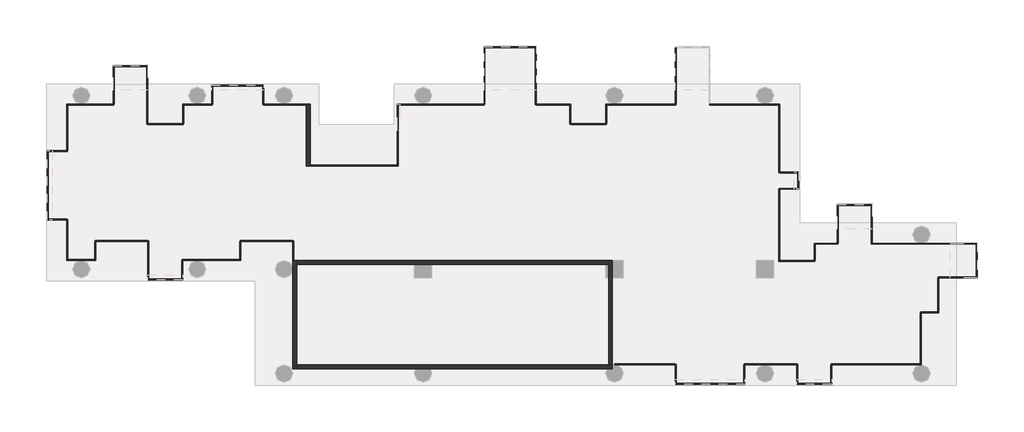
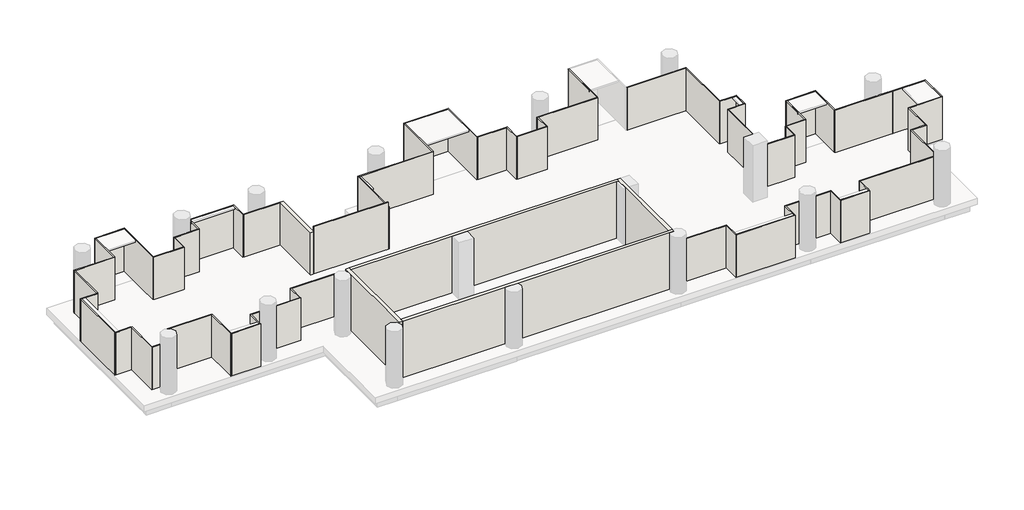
# One storey, part 1 of 2: 71 walls.
"""IFC4 building model written with IfcOpenShell, lengths in millimetres."""

from ifc_helpers import new_model, si_unit, frame, origin, place, context, project, spatial, polyline, outline, extrude, faceted_brep, element, save

model = new_model("IFC4")

# Units and contexts
model_context = context("Model", 3, world=origin())
ifc_project = project(units=[si_unit("LENGTHUNIT", "METRE", prefix="MILLI")], contexts=[model_context])

# Site, building, storey
site = spatial("IfcSite", under=ifc_project)
building = spatial("IfcBuilding", under=site)
storey = spatial("IfcBuildingStorey", under=building, Name="TW-L 06", Elevation=20799.9999686)

# Walls
placement = place(None, origin())
element("IfcWall", 1, ObjectType="AJN-ARC-CONCRETE WALL-20cm", at=placement, inside=storey, context=model_context, shape_type="Brep", body=[
    faceted_brep([(113050.0, 30750.0, 24399.9999686), (113050.0, 30750.0, 20799.9999686), (113050.0, 25150.0, 20799.9999686), (113050.0, 25150.0, 24399.9999686), (113250.0, 30750.0, 20799.9999686), (113250.0, 30750.0, 24399.9999686), (113250.0, 30550.0, 24399.9999686), (113250.0, 25350.0, 24399.9999686), (113250.0, 25150.0, 24399.9999686), (113250.0, 25150.0, 20799.9999686), (113250.0, 25350.0, 20799.9999686), (113250.0, 30550.0, 20799.9999686), (113097.1743518, 30750.0, 20799.9999686)], [[[0, 1, 2, 3]], [[4, 5, 6, 7, 8, 9, 10, 11]], [[2, 1, 12, 4, 11, 10, 9]], [[0, 3, 8, 7, 6, 5]], [[3, 2, 9, 8]], [[0, 5, 4, 12, 1]]]),
])
element("IfcWall", 2, ObjectType="AJN-ARC-CONCRETE WALL-20cm", at=placement, inside=storey, context=model_context, shape_type="Brep", body=[
    faceted_brep([(113250.0, 25150.0, 20799.9999686), (119425.8342613, 25150.0, 20799.9999686), (120174.1657387, 25150.0, 20799.9999686), (129325.8342613, 25150.0, 20799.9999686), (129600.0, 25150.0, 20799.9999686), (129600.0, 25150.0, 24399.9999686), (129325.8342613, 25150.0, 24399.9999686), (120174.1657387, 25150.0, 24399.9999686), (119425.8342613, 25150.0, 24399.9999686), (113250.0, 25150.0, 24399.9999686), (113250.0, 25350.0, 20799.9999686), (113250.0, 25350.0, 24399.9999686), (129400.0, 25350.0, 24399.9999686), (129600.0, 25350.0, 24399.9999686), (129600.0, 25350.0, 20799.9999686), (129400.0, 25350.0, 20799.9999686), (129600.0, 25338.7482194, 20799.9999686), (129600.0, 25338.7482194, 24399.9999686)], [[[0, 1, 2, 3, 4, 5, 6, 7, 8, 9]], [[10, 11, 12, 13, 14, 15]], [[4, 3, 2, 1, 0, 10, 15, 14, 16]], [[9, 8, 7, 6, 5, 17, 13, 12, 11]], [[5, 4, 16, 14, 13, 17]], [[0, 9, 11, 10]]]),
])
element("IfcWall", 3, ObjectType="AJN-ARC-CONCRETE WALL-20cm", at=placement, inside=storey, context=model_context, shape_type="Brep", body=[
    faceted_brep([(129600.0, 25350.0, 20799.9999686), (129600.0, 29850.0, 20799.9999686), (129600.0, 30750.0, 20799.9999686), (129600.0, 30750.0, 24399.9999686), (129600.0, 29850.0, 24399.9999686), (129600.0, 25350.0, 24399.9999686), (129400.0, 25350.0, 20799.9999686), (129400.0, 25350.0, 24399.9999686), (129400.0, 29850.0, 24399.9999686), (129400.0, 30550.0, 24399.9999686), (129400.0, 30750.0, 24399.9999686), (129400.0, 30750.0, 20799.9999686), (129400.0, 30550.0, 20799.9999686), (129400.0, 29850.0, 20799.9999686)], [[[0, 1, 2, 3, 4, 5]], [[6, 7, 8, 9, 10, 11, 12, 13]], [[2, 1, 0, 6, 13, 12, 11]], [[5, 4, 3, 10, 9, 8, 7]], [[3, 2, 11, 10]], [[0, 5, 7, 6]]]),
])
element("IfcWall", 4, ObjectType="AJN-ARC-CONCRETE WALL-20cm", at=placement, inside=storey, context=model_context, shape_type="Brep", body=[
    faceted_brep([(129400.0, 30750.0, 20799.9999686), (113250.0, 30750.0, 20799.9999686), (113250.0, 30750.0, 24399.9999686), (129400.0, 30750.0, 24399.9999686), (129400.0, 30550.0, 20799.9999686), (129400.0, 30550.0, 24399.9999686), (129250.0, 30550.0, 24399.9999686), (120250.0, 30550.0, 24399.9999686), (119350.0, 30550.0, 24399.9999686), (113250.0, 30550.0, 24399.9999686), (113250.0, 30550.0, 20799.9999686), (119350.0, 30550.0, 20799.9999686), (120250.0, 30550.0, 20799.9999686), (129250.0, 30550.0, 20799.9999686)], [[[0, 1, 2, 3]], [[4, 5, 6, 7, 8, 9, 10, 11, 12, 13]], [[1, 0, 4, 13, 12, 11, 10]], [[3, 2, 9, 8, 7, 6, 5]], [[0, 3, 5, 4]], [[1, 10, 9, 2]]]),
])
element("IfcWall", 5, ObjectType="AJN-ARC-CONCRETE WALL-20cm", at=placement, inside=storey, context=model_context, shape_type="Brep", body=[
    faceted_brep([(113950.0, 35650.0, 20799.9999686), (113950.0, 38850.001152, 20799.9999686), (113950.0, 38850.001152, 23499.9999686), (113950.0, 35650.0, 23499.9999686), (113750.0, 35650.0, 20799.9999686), (113750.0, 35650.0, 23499.9999686), (113750.0, 38800.001056, 23499.9999686), (113750.0, 38850.001056, 23499.9999686), (113750.0, 38850.001056, 20799.9999686), (113750.0, 38800.001056, 20799.9999686)], [[[0, 1, 2, 3]], [[4, 5, 6, 7, 8, 9]], [[1, 0, 4, 9, 8]], [[3, 2, 7, 6, 5]], [[0, 3, 5, 4]], [[2, 1, 8, 7]]]),
])
element("IfcWall", 6, ObjectType="AJN-ARC-GLASS-50mm", at=placement, inside=storey, context=model_context, shape_type="SweptSolid", body=[
    extrude(outline(polyline([(111550.0, 38850.0), (113750.0, 38850.001056), (113750.0, 38800.001056), (111550.000024, 38800.0), (111550.0, 38850.0)])), frame((0.0, 0.0, 20799.9999686), z_axis=(0.0, 0.0, 1.0), x_axis=(1.0, 0.0, 0.0)), (0.0, 0.0, 1.0), 2700.0),
])
element("IfcWall", 7, ObjectType="AJN-ARC-GLASS-50mm", at=placement, inside=storey, context=model_context, shape_type="Brep", body=[
    faceted_brep([(111550.0, 38824.999988, 20799.9999686), (111550.0, 39850.0, 20799.9999686), (111550.0, 39850.0, 23499.9999686), (111550.0, 38824.999988, 23499.9999686), (111500.0, 38824.999988, 20799.9999686), (111500.0, 38824.999988, 23499.9999686), (111500.0, 39800.0, 23499.9999686), (111500.0, 39850.0, 23499.9999686), (111500.0, 39850.0, 20799.9999686), (111500.0, 39800.0, 20799.9999686)], [[[0, 1, 2, 3]], [[4, 5, 6, 7, 8, 9]], [[1, 0, 4, 9, 8]], [[3, 2, 7, 6, 5]], [[0, 3, 5, 4]], [[2, 1, 8, 7]]]),
])
element("IfcWall", 8, ObjectType="AJN-ARC-GLASS-50mm", at=placement, inside=storey, context=model_context, shape_type="Brep", body=[
    faceted_brep([(111500.0, 39850.0, 20799.9999686), (108850.0, 39850.0, 20799.9999686), (108850.0, 39850.0, 23499.9999686), (111500.0, 39850.0, 23499.9999686), (111500.0, 39800.0, 20799.9999686), (111500.0, 39800.0, 23499.9999686), (108900.0, 39800.0, 23499.9999686), (108850.0, 39800.0, 23499.9999686), (108850.0, 39800.0, 20799.9999686), (108900.0, 39800.0, 20799.9999686)], [[[0, 1, 2, 3]], [[4, 5, 6, 7, 8, 9]], [[1, 0, 4, 9, 8]], [[3, 2, 7, 6, 5]], [[2, 1, 8, 7]], [[0, 3, 5, 4]]]),
])
element("IfcWall", 9, ObjectType="AJN-ARC-GLASS-50mm", at=placement, inside=storey, context=model_context, shape_type="SweptSolid", body=[
    extrude(outline(polyline([(108850.0, 38850.0), (108850.0, 39800.0), (108900.0, 39800.0), (108900.0, 38850.0), (108850.0, 38850.0)])), frame((0.0, 0.0, 20799.9999686), z_axis=(0.0, 0.0, 1.0), x_axis=(1.0, 0.0, 0.0)), (0.0, 0.0, 1.0), 2700.0),
])
element("IfcWall", 10, ObjectType="AJN-ARC-GLASS-50mm", at=placement, inside=storey, context=model_context, shape_type="Brep", body=[
    faceted_brep([(108875.0, 38850.0, 20799.9999686), (107350.0, 38850.0, 20799.9999686), (107350.0, 38850.0, 23499.9999686), (108875.0, 38850.0, 23499.9999686), (108875.0, 38800.0, 20799.9999686), (108875.0, 38800.0, 23499.9999686), (107400.0, 38800.0, 23499.9999686), (107350.0, 38800.0, 23499.9999686), (107350.0, 38800.0, 20799.9999686), (107400.0, 38800.0, 20799.9999686)], [[[0, 1, 2, 3]], [[4, 5, 6, 7, 8, 9]], [[1, 0, 4, 9, 8]], [[3, 2, 7, 6, 5]], [[0, 3, 5, 4]], [[2, 1, 8, 7]]]),
])
element("IfcWall", 11, ObjectType="AJN-ARC-GLASS-50mm", at=placement, inside=storey, context=model_context, shape_type="SweptSolid", body=[
    extrude(outline(polyline([(107350.0, 37850.0), (107350.0, 38800.0), (107400.0, 38800.0), (107400.0, 37850.0), (107350.0, 37850.0)])), frame((0.0, 0.0, 20799.9999686), z_axis=(0.0, 0.0, 1.0), x_axis=(1.0, 0.0, 0.0)), (0.0, 0.0, 1.0), 2700.0),
])
element("IfcWall", 12, ObjectType="AJN-ARC-GLASS-50mm", at=placement, inside=storey, context=model_context, shape_type="SweptSolid", body=[
    extrude(outline(polyline([(105550.0, 37850.0), (107375.0, 37850.0), (107375.0, 37800.0), (105550.0, 37800.0), (105550.0, 37850.0)])), frame((0.0, 0.0, 20799.9999686), z_axis=(0.0, 0.0, 1.0), x_axis=(1.0, 0.0, 0.0)), (0.0, 0.0, 1.0), 2700.0),
])
element("IfcWall", 13, ObjectType="AJN-ARC-GLASS-50mm", at=placement, inside=storey, context=model_context, shape_type="Brep", body=[
    faceted_brep([(105550.0, 37825.0, 20799.9999686), (105550.0, 40850.0, 20799.9999686), (105550.0, 40850.0, 23499.9999686), (105550.0, 37825.0, 23499.9999686), (105500.0, 37825.0, 20799.9999686), (105500.0, 37825.0, 23499.9999686), (105500.0, 40800.0, 23499.9999686), (105500.0, 40850.0, 23499.9999686), (105500.0, 40850.0, 20799.9999686), (105500.0, 40800.0, 20799.9999686)], [[[0, 1, 2, 3]], [[4, 5, 6, 7, 8, 9]], [[1, 0, 4, 9, 8]], [[3, 2, 7, 6, 5]], [[0, 3, 5, 4]], [[2, 1, 8, 7]]]),
])
element("IfcWall", 14, ObjectType="AJN-ARC-GLASS-50mm", at=placement, inside=storey, context=model_context, shape_type="Brep", body=[
    faceted_brep([(105500.0, 40850.0, 20799.9999686), (103750.0, 40850.0, 20799.9999686), (103750.0, 40850.0, 23499.9999686), (105500.0, 40850.0, 23499.9999686), (105500.0, 40800.0, 20799.9999686), (105500.0, 40800.0, 23499.9999686), (103800.0, 40800.0, 23499.9999686), (103750.0, 40800.0, 23499.9999686), (103750.0, 40800.0, 20799.9999686), (103800.0, 40800.0, 20799.9999686)], [[[0, 1, 2, 3]], [[4, 5, 6, 7, 8, 9]], [[1, 0, 4, 9, 8]], [[3, 2, 7, 6, 5]], [[2, 1, 8, 7]], [[0, 3, 5, 4]]]),
])
element("IfcWall", 15, ObjectType="AJN-ARC-GLASS-50mm", at=placement, inside=storey, context=model_context, shape_type="SweptSolid", body=[
    extrude(outline(polyline([(103750.0, 38850.0), (103750.0, 40800.0), (103800.0, 40800.0), (103800.0, 38850.0), (103750.0, 38850.0)])), frame((0.0, 0.0, 20799.9999686), z_axis=(0.0, 0.0, 1.0), x_axis=(1.0, 0.0, 0.0)), (0.0, 0.0, 1.0), 2700.0),
])
element("IfcWall", 16, ObjectType="AJN-ARC-GLASS-50mm", at=placement, inside=storey, context=model_context, shape_type="Brep", body=[
    faceted_brep([(103775.000012, 38849.999988, 20799.9999686), (101347.1743518, 38850.001152, 20799.9999686), (101347.1743518, 38850.001152, 23499.9999686), (103775.000012, 38849.999988, 23499.9999686), (103774.999988, 38799.999988, 20799.9999686), (103774.999988, 38799.999988, 23499.9999686), (101397.1743518, 38800.001128, 23499.9999686), (101347.1743518, 38800.001152, 23499.9999686), (101347.1743518, 38800.001152, 20799.9999686), (101397.1743518, 38800.001128, 20799.9999686)], [[[0, 1, 2, 3]], [[4, 5, 6, 7, 8, 9]], [[1, 0, 4, 9, 8]], [[3, 2, 7, 6, 5]], [[0, 3, 5, 4]], [[2, 1, 8, 7]]]),
])
element("IfcWall", 17, ObjectType="AJN-ARC-GLASS-50mm", at=placement, inside=storey, context=model_context, shape_type="SweptSolid", body=[
    extrude(outline(polyline([(101347.1743518, 36450.0), (101347.1743518, 38800.001152), (101397.1743518, 38800.001128), (101397.1743518, 36450.0), (101347.1743518, 36450.0)])), frame((0.0, 0.0, 20799.9999686), z_axis=(0.0, 0.0, 1.0), x_axis=(1.0, 0.0, 0.0)), (0.0, 0.0, 1.0), 2700.0),
])
element("IfcWall", 18, ObjectType="AJN-ARC-GLASS-50mm", at=placement, inside=storey, context=model_context, shape_type="Brep", body=[
    faceted_brep([(101372.1743518, 36450.0, 20799.9999686), (100347.1743518, 36450.0, 20799.9999686), (100347.1743518, 36450.0, 23499.9999686), (101372.1743518, 36450.0, 23499.9999686), (101372.1743518, 36400.0, 20799.9999686), (101372.1743518, 36400.0, 23499.9999686), (100397.1743518, 36400.0, 23499.9999686), (100347.1743518, 36400.0, 23499.9999686), (100347.1743518, 36400.0, 20799.9999686), (100397.1743518, 36400.0, 20799.9999686)], [[[0, 1, 2, 3]], [[4, 5, 6, 7, 8, 9]], [[1, 0, 4, 9, 8]], [[3, 2, 7, 6, 5]], [[0, 3, 5, 4]], [[2, 1, 8, 7]]]),
])
element("IfcWall", 19, ObjectType="AJN-ARC-GLASS-50mm", at=placement, inside=storey, context=model_context, shape_type="Brep", body=[
    faceted_brep([(100347.1743518, 36400.0, 20799.9999686), (100347.1743518, 32850.0, 20799.9999686), (100347.1743518, 32850.0, 23499.9999686), (100347.1743518, 36400.0, 23499.9999686), (100397.1743518, 36400.0, 20799.9999686), (100397.1743518, 36400.0, 23499.9999686), (100397.1743518, 32900.0, 23499.9999686), (100397.1743518, 32850.0, 23499.9999686), (100397.1743518, 32850.0, 20799.9999686), (100397.1743518, 32900.0, 20799.9999686)], [[[0, 1, 2, 3]], [[4, 5, 6, 7, 8, 9]], [[1, 0, 4, 9, 8]], [[3, 2, 7, 6, 5]], [[2, 1, 8, 7]], [[0, 3, 5, 4]]]),
])
element("IfcWall", 20, ObjectType="AJN-ARC-GLASS-50mm", at=placement, inside=storey, context=model_context, shape_type="SweptSolid", body=[
    extrude(outline(polyline([(101347.1743518, 32850.0), (100397.1743518, 32850.0), (100397.1743518, 32900.0), (101347.1743518, 32900.0), (101347.1743518, 32850.0)])), frame((0.0, 0.0, 20799.9999686), z_axis=(0.0, 0.0, 1.0), x_axis=(1.0, 0.0, 0.0)), (0.0, 0.0, 1.0), 2700.0),
])
element("IfcWall", 21, ObjectType="AJN-ARC-GLASS-50mm", at=placement, inside=storey, context=model_context, shape_type="Brep", body=[
    faceted_brep([(101347.1743518, 32875.0, 20799.9999686), (101347.1743518, 30750.0, 20799.9999686), (101347.1743518, 30750.0, 23499.9999686), (101347.1743518, 32875.0, 23499.9999686), (101397.1743518, 32875.0, 20799.9999686), (101397.1743518, 32875.0, 23499.9999686), (101397.1743518, 30800.0, 23499.9999686), (101397.1743518, 30750.0, 23499.9999686), (101397.1743518, 30750.0, 20799.9999686), (101397.1743518, 30800.0, 20799.9999686)], [[[0, 1, 2, 3]], [[4, 5, 6, 7, 8, 9]], [[1, 0, 4, 9, 8]], [[3, 2, 7, 6, 5]], [[0, 3, 5, 4]], [[2, 1, 8, 7]]]),
])
element("IfcWall", 22, ObjectType="AJN-ARC-GLASS-50mm", at=placement, inside=storey, context=model_context, shape_type="Brep", body=[
    faceted_brep([(101397.1743518, 30750.0, 20799.9999686), (102847.1743518, 30750.0, 20799.9999686), (102847.1743518, 30750.0, 23499.9999686), (101397.1743518, 30750.0, 23499.9999686), (101397.1743518, 30800.0, 20799.9999686), (101397.1743518, 30800.0, 23499.9999686), (102797.1743518, 30800.0, 23499.9999686), (102847.1743518, 30800.0, 23499.9999686), (102847.1743518, 30800.0, 20799.9999686), (102797.1743518, 30800.0, 20799.9999686)], [[[0, 1, 2, 3]], [[4, 5, 6, 7, 8, 9]], [[1, 0, 4, 9, 8]], [[3, 2, 7, 6, 5]], [[2, 1, 8, 7]], [[0, 3, 5, 4]]]),
])
element("IfcWall", 23, ObjectType="AJN-ARC-GLASS-50mm", at=placement, inside=storey, context=model_context, shape_type="SweptSolid", body=[
    extrude(outline(polyline([(102847.1743518, 31750.0), (102847.1743518, 30800.0), (102797.1743518, 30800.0), (102797.1743518, 31750.0), (102847.1743518, 31750.0)])), frame((0.0, 0.0, 20799.9999686), z_axis=(0.0, 0.0, 1.0), x_axis=(1.0, 0.0, 0.0)), (0.0, 0.0, 1.0), 2700.0),
])
element("IfcWall", 24, ObjectType="AJN-ARC-GLASS-50mm", at=placement, inside=storey, context=model_context, shape_type="SweptSolid", body=[
    extrude(outline(polyline([(105547.1743518, 31750.0), (102822.1743518, 31750.0), (102822.1743518, 31800.0), (105547.1743518, 31800.0), (105547.1743518, 31750.0)])), frame((0.0, 0.0, 20799.9999686), z_axis=(0.0, 0.0, 1.0), x_axis=(1.0, 0.0, 0.0)), (0.0, 0.0, 1.0), 2700.0),
])
element("IfcWall", 25, ObjectType="AJN-ARC-GLASS-50mm", at=placement, inside=storey, context=model_context, shape_type="Brep", body=[
    faceted_brep([(105547.1743518, 31775.0, 20799.9999686), (105547.1743518, 29750.0, 20799.9999686), (105547.1743518, 29750.0, 23499.9999686), (105547.1743518, 31775.0, 23499.9999686), (105597.1743518, 31775.0, 20799.9999686), (105597.1743518, 31775.0, 23499.9999686), (105597.1743518, 29800.0, 23499.9999686), (105597.1743518, 29750.0, 23499.9999686), (105597.1743518, 29750.0, 20799.9999686), (105597.1743518, 29800.0, 20799.9999686)], [[[0, 1, 2, 3]], [[4, 5, 6, 7, 8, 9]], [[1, 0, 4, 9, 8]], [[3, 2, 7, 6, 5]], [[0, 3, 5, 4]], [[2, 1, 8, 7]]]),
])
element("IfcWall", 26, ObjectType="AJN-ARC-GLASS-50mm", at=placement, inside=storey, context=model_context, shape_type="Brep", body=[
    faceted_brep([(105597.1743518, 29750.0, 20799.9999686), (107347.1743518, 29750.0, 20799.9999686), (107347.1743518, 29750.0, 23499.9999686), (105597.1743518, 29750.0, 23499.9999686), (105597.1743518, 29800.0, 20799.9999686), (105597.1743518, 29800.0, 23499.9999686), (107297.1743518, 29800.0, 23499.9999686), (107347.1743518, 29800.0, 23499.9999686), (107347.1743518, 29800.0, 20799.9999686), (107297.1743518, 29800.0, 20799.9999686)], [[[0, 1, 2, 3]], [[4, 5, 6, 7, 8, 9]], [[1, 0, 4, 9, 8]], [[3, 2, 7, 6, 5]], [[2, 1, 8, 7]], [[0, 3, 5, 4]]]),
])
element("IfcWall", 27, ObjectType="AJN-ARC-GLASS-50mm", at=placement, inside=storey, context=model_context, shape_type="SweptSolid", body=[
    extrude(outline(polyline([(107347.1743518, 30750.0), (107347.1743518, 29800.0), (107297.1743518, 29800.0), (107297.1743518, 30750.0), (107347.1743518, 30750.0)])), frame((0.0, 0.0, 20799.9999686), z_axis=(0.0, 0.0, 1.0), x_axis=(1.0, 0.0, 0.0)), (0.0, 0.0, 1.0), 2700.0),
])
element("IfcWall", 28, ObjectType="AJN-ARC-GLASS-50mm", at=placement, inside=storey, context=model_context, shape_type="Brep", body=[
    faceted_brep([(107322.1743518, 30750.0, 20799.9999686), (110347.1743518, 30750.0, 20799.9999686), (110347.1743518, 30750.0, 23499.9999686), (107322.1743518, 30750.0, 23499.9999686), (107322.1743518, 30800.0, 20799.9999686), (107322.1743518, 30800.0, 23499.9999686), (110297.1743518, 30800.0, 23499.9999686), (110347.1743518, 30800.0, 23499.9999686), (110347.1743518, 30800.0, 20799.9999686), (110297.1743518, 30800.0, 20799.9999686)], [[[0, 1, 2, 3]], [[4, 5, 6, 7, 8, 9]], [[1, 0, 4, 9, 8]], [[3, 2, 7, 6, 5]], [[0, 3, 5, 4]], [[2, 1, 8, 7]]]),
])
element("IfcWall", 29, ObjectType="AJN-ARC-GLASS-50mm", at=placement, inside=storey, context=model_context, shape_type="SweptSolid", body=[
    extrude(outline(polyline([(110347.1743518, 31750.0), (110347.1743518, 30800.0), (110297.1743518, 30800.0), (110297.1743518, 31750.0), (110347.1743518, 31750.0)])), frame((0.0, 0.0, 20799.9999686), z_axis=(0.0, 0.0, 1.0), x_axis=(1.0, 0.0, 0.0)), (0.0, 0.0, 1.0), 2700.0),
])
element("IfcWall", 30, ObjectType="AJN-ARC-GLASS-50mm", at=placement, inside=storey, context=model_context, shape_type="SweptSolid", body=[
    extrude(outline(polyline([(113047.1743518, 31750.0), (110322.1743518, 31750.0), (110322.1743518, 31800.0), (113047.1743518, 31800.0), (113047.1743518, 31750.0)])), frame((0.0, 0.0, 20799.9999686), z_axis=(0.0, 0.0, 1.0), x_axis=(1.0, 0.0, 0.0)), (0.0, 0.0, 1.0), 2700.0),
])
element("IfcWall", 31, ObjectType="AJN-ARC-GLASS-50mm", at=placement, inside=storey, context=model_context, shape_type="Brep", body=[
    faceted_brep([(113047.1743518, 31775.0, 20799.9999686), (113047.1743518, 30750.0, 20799.9999686), (113047.1743518, 30750.0, 23499.9999686), (113047.1743518, 31775.0, 23499.9999686), (113097.1743518, 31775.0, 20799.9999686), (113097.1743518, 31775.0, 23499.9999686), (113097.1743518, 30750.0, 23499.9999686), (113097.1743518, 30750.0, 20799.9999686), (113050.0, 30750.0, 20799.9999686)], [[[0, 1, 2, 3]], [[4, 5, 6, 7]], [[1, 0, 4, 7, 8]], [[3, 2, 6, 5]], [[0, 3, 5, 4]], [[2, 1, 8, 7, 6]]]),
])
element("IfcWall", 32, ObjectType="AJN-ARC-GLASS-50mm", at=placement, inside=storey, context=model_context, shape_type="Brep", body=[
    faceted_brep([(138250.0, 30700.0, 20799.9999686), (138250.0, 30750.0, 20799.9999686), (138250.0, 34450.0, 20799.9999686), (138250.0, 34450.0, 23499.9999686), (138250.0, 30750.0, 23499.9999686), (138250.0, 30700.0, 23499.9999686), (138200.0, 30700.0, 20799.9999686), (138200.0, 30700.0, 23499.9999686), (138200.0, 34450.0, 23499.9999686), (138200.0, 34450.0, 20799.9999686)], [[[0, 1, 2, 3, 4, 5]], [[6, 7, 8, 9]], [[2, 1, 0, 6, 9]], [[3, 2, 9, 8]], [[5, 4, 3, 8, 7]], [[0, 5, 7, 6]]]),
])
element("IfcWall", 33, ObjectType="AJN-ARC-GLASS-50mm", at=placement, inside=storey, context=model_context, shape_type="Brep", body=[
    faceted_brep([(138225.0, 34450.0, 20799.9999686), (139250.0, 34450.0, 20799.9999686), (139250.0, 34450.0, 23499.9999686), (138225.0, 34450.0, 23499.9999686), (138225.0, 34500.0, 20799.9999686), (138225.0, 34500.0, 23499.9999686), (139200.0, 34500.0, 23499.9999686), (139250.0, 34500.0, 23499.9999686), (139250.0, 34500.0, 20799.9999686), (139200.0, 34500.0, 20799.9999686)], [[[0, 1, 2, 3]], [[4, 5, 6, 7, 8, 9]], [[1, 0, 4, 9, 8]], [[3, 2, 7, 6, 5]], [[0, 3, 5, 4]], [[2, 1, 8, 7]]]),
])
element("IfcWall", 34, ObjectType="AJN-ARC-GLASS-50mm", at=placement, inside=storey, context=model_context, shape_type="Brep", body=[
    faceted_brep([(139250.0, 34500.0, 20799.9999686), (139250.0, 35350.0, 20799.9999686), (139250.0, 35350.0, 23499.9999686), (139250.0, 34500.0, 23499.9999686), (139200.0, 34500.0, 20799.9999686), (139200.0, 34500.0, 23499.9999686), (139200.0, 35300.0, 23499.9999686), (139200.0, 35350.0, 23499.9999686), (139200.0, 35350.0, 20799.9999686), (139200.0, 35300.0, 20799.9999686)], [[[0, 1, 2, 3]], [[4, 5, 6, 7, 8, 9]], [[1, 0, 4, 9, 8]], [[3, 2, 7, 6, 5]], [[2, 1, 8, 7]], [[0, 3, 5, 4]]]),
])
element("IfcWall", 35, ObjectType="AJN-ARC-GLASS-50mm", at=placement, inside=storey, context=model_context, shape_type="SweptSolid", body=[
    extrude(outline(polyline([(138250.0, 35350.0), (139200.0, 35350.0), (139200.0, 35300.0), (138250.0, 35300.0), (138250.0, 35350.0)])), frame((0.0, 0.0, 20799.9999686), z_axis=(0.0, 0.0, 1.0), x_axis=(1.0, 0.0, 0.0)), (0.0, 0.0, 1.0), 2700.0),
])
element("IfcWall", 36, ObjectType="AJN-ARC-GLASS-50mm", at=placement, inside=storey, context=model_context, shape_type="Brep", body=[
    faceted_brep([(138250.0, 35325.0, 20799.9999686), (138250.0, 38850.0, 20799.9999686), (138250.0, 38850.0, 23499.9999686), (138250.0, 35325.0, 23499.9999686), (138200.0, 35325.0, 20799.9999686), (138200.0, 35325.0, 23499.9999686), (138200.0, 38800.0, 23499.9999686), (138200.0, 38850.0, 23499.9999686), (138200.0, 38850.0, 20799.9999686), (138200.0, 38800.0, 20799.9999686)], [[[0, 1, 2, 3]], [[4, 5, 6, 7, 8, 9]], [[1, 0, 4, 9, 8]], [[3, 2, 7, 6, 5]], [[0, 3, 5, 4]], [[2, 1, 8, 7]]]),
])
element("IfcWall", 37, ObjectType="AJN-ARC-GLASS-50mm", at=placement, inside=storey, context=model_context, shape_type="SweptSolid", body=[
    extrude(outline(polyline([(134650.0, 38850.0), (138200.0, 38850.0), (138200.0, 38800.0), (134650.0, 38800.0), (134650.0, 38850.0)])), frame((0.0, 0.0, 20799.9999686), z_axis=(0.0, 0.0, 1.0), x_axis=(1.0, 0.0, 0.0)), (0.0, 0.0, 1.0), 2700.0),
])
element("IfcWall", 38, ObjectType="AJN-ARC-GLASS-50mm", at=placement, inside=storey, context=model_context, shape_type="SweptSolid", body=[
    extrude(outline(polyline([(132850.0, 38850.0), (132850.0, 41800.0), (132900.0, 41800.0), (132900.0, 38850.0), (132850.0, 38850.0)])), frame((0.0, 0.0, 20799.9999686), z_axis=(0.0, 0.0, 1.0), x_axis=(1.0, 0.0, 0.0)), (0.0, 0.0, 1.0), 2700.0),
])
element("IfcWall", 39, ObjectType="AJN-ARC-GLASS-50mm", at=placement, inside=storey, context=model_context, shape_type="Brep", body=[
    faceted_brep([(132875.0, 38850.0, 20799.9999686), (129250.0, 38850.0, 20799.9999686), (129250.0, 38850.0, 23499.9999686), (132875.0, 38850.0, 23499.9999686), (132875.0, 38800.0, 20799.9999686), (132875.0, 38800.0, 23499.9999686), (129300.0, 38800.0, 23499.9999686), (129250.0, 38800.0, 23499.9999686), (129250.0, 38800.0, 20799.9999686), (129300.0, 38800.0, 20799.9999686)], [[[0, 1, 2, 3]], [[4, 5, 6, 7, 8, 9]], [[1, 0, 4, 9, 8]], [[3, 2, 7, 6, 5]], [[0, 3, 5, 4]], [[2, 1, 8, 7]]]),
])
element("IfcWall", 40, ObjectType="AJN-ARC-GLASS-50mm", at=placement, inside=storey, context=model_context, shape_type="SweptSolid", body=[
    extrude(outline(polyline([(129250.0, 37850.0), (129250.0, 38800.0), (129300.0, 38800.0), (129300.0, 37850.0), (129250.0, 37850.0)])), frame((0.0, 0.0, 20799.9999686), z_axis=(0.0, 0.0, 1.0), x_axis=(1.0, 0.0, 0.0)), (0.0, 0.0, 1.0), 2700.0),
])
element("IfcWall", 41, ObjectType="AJN-ARC-GLASS-50mm", at=placement, inside=storey, context=model_context, shape_type="SweptSolid", body=[
    extrude(outline(polyline([(127450.0, 37850.0), (129275.0, 37850.0), (129275.0, 37800.0), (127450.0, 37800.0), (127450.0, 37850.0)])), frame((0.0, 0.0, 20799.9999686), z_axis=(0.0, 0.0, 1.0), x_axis=(1.0, 0.0, 0.0)), (0.0, 0.0, 1.0), 2700.0),
])
element("IfcWall", 42, ObjectType="AJN-ARC-GLASS-50mm", at=placement, inside=storey, context=model_context, shape_type="Brep", body=[
    faceted_brep([(127450.0, 37825.0, 20799.9999686), (127450.0, 38850.0, 20799.9999686), (127450.0, 38850.0, 23499.9999686), (127450.0, 37825.0, 23499.9999686), (127400.0, 37825.0, 20799.9999686), (127400.0, 37825.0, 23499.9999686), (127400.0, 38800.0, 23499.9999686), (127400.0, 38850.0, 23499.9999686), (127400.0, 38850.0, 20799.9999686), (127400.0, 38800.0, 20799.9999686)], [[[0, 1, 2, 3]], [[4, 5, 6, 7, 8, 9]], [[1, 0, 4, 9, 8]], [[3, 2, 7, 6, 5]], [[0, 3, 5, 4]], [[2, 1, 8, 7]]]),
])
element("IfcWall", 43, ObjectType="AJN-ARC-GLASS-50mm", at=placement, inside=storey, context=model_context, shape_type="SweptSolid", body=[
    extrude(outline(polyline([(125650.0, 38850.0), (127400.0, 38850.0), (127400.0, 38800.0), (125650.0, 38800.0), (125650.0, 38850.0)])), frame((0.0, 0.0, 20799.9999686), z_axis=(0.0, 0.0, 1.0), x_axis=(1.0, 0.0, 0.0)), (0.0, 0.0, 1.0), 2700.0),
])
element("IfcWall", 44, ObjectType="AJN-ARC-GLASS-50mm", at=placement, inside=storey, context=model_context, shape_type="Brep", body=[
    faceted_brep([(125650.0, 38825.0, 20799.9999686), (125650.0, 41850.0, 20799.9999686), (125650.0, 41850.0, 23499.9999686), (125650.0, 38825.0, 23499.9999686), (125600.0, 38825.0, 20799.9999686), (125600.0, 38825.0, 23499.9999686), (125600.0, 41800.0, 23499.9999686), (125600.0, 41850.0, 23499.9999686), (125600.0, 41850.0, 20799.9999686), (125600.0, 41800.0, 20799.9999686)], [[[0, 1, 2, 3]], [[4, 5, 6, 7, 8, 9]], [[1, 0, 4, 9, 8]], [[3, 2, 7, 6, 5]], [[0, 3, 5, 4]], [[2, 1, 8, 7]]]),
])
element("IfcWall", 45, ObjectType="AJN-ARC-GLASS-50mm", at=placement, inside=storey, context=model_context, shape_type="Brep", body=[
    faceted_brep([(125600.0, 41850.0, 20799.9999686), (122950.0, 41850.0, 20799.9999686), (122950.0, 41850.0, 23499.9999686), (125600.0, 41850.0, 23499.9999686), (125600.0, 41800.0, 20799.9999686), (125600.0, 41800.0, 23499.9999686), (123000.0, 41800.0, 23499.9999686), (122950.0, 41800.0, 23499.9999686), (122950.0, 41800.0, 20799.9999686), (123000.0, 41800.0, 20799.9999686)], [[[0, 1, 2, 3]], [[4, 5, 6, 7, 8, 9]], [[1, 0, 4, 9, 8]], [[3, 2, 7, 6, 5]], [[2, 1, 8, 7]], [[0, 3, 5, 4]]]),
])
element("IfcWall", 46, ObjectType="AJN-ARC-GLASS-50mm", at=placement, inside=storey, context=model_context, shape_type="SweptSolid", body=[
    extrude(outline(polyline([(122950.0, 38850.0), (122950.0, 41800.0), (123000.0, 41800.0), (123000.0, 38850.0), (122950.0, 38850.0)])), frame((0.0, 0.0, 20799.9999686), z_axis=(0.0, 0.0, 1.0), x_axis=(1.0, 0.0, 0.0)), (0.0, 0.0, 1.0), 2700.0),
])
element("IfcWall", 47, ObjectType="AJN-ARC-GLASS-50mm", at=placement, inside=storey, context=model_context, shape_type="Brep", body=[
    faceted_brep([(122975.0, 38850.0, 20799.9999686), (118450.0, 38850.0, 20799.9999686), (118450.0, 38850.0, 23499.9999686), (122975.0, 38850.0, 23499.9999686), (122975.0, 38800.0, 20799.9999686), (122975.0, 38800.0, 23499.9999686), (118500.0, 38800.0, 23499.9999686), (118450.0, 38800.0, 23499.9999686), (118450.0, 38800.0, 20799.9999686), (118500.0, 38800.0, 20799.9999686)], [[[0, 1, 2, 3]], [[4, 5, 6, 7, 8, 9]], [[1, 0, 4, 9, 8]], [[3, 2, 7, 6, 5]], [[0, 3, 5, 4]], [[2, 1, 8, 7]]]),
])
element("IfcWall", 48, ObjectType="AJN-ARC-GLASS-50mm", at=placement, inside=storey, context=model_context, shape_type="SweptSolid", body=[
    extrude(outline(polyline([(132856.2236377, 25350.0), (129714.068817, 25350.0), (129714.068817, 25400.0), (132856.2236377, 25400.0), (132856.2236377, 25350.0)])), frame((0.0, 0.0, 20799.9999686), z_axis=(0.0, 0.0, 1.0), x_axis=(1.0, 0.0, 0.0)), (0.0, 0.0, 1.0), 2700.0),
])
element("IfcWall", 49, ObjectType="AJN-ARC-GLASS-50mm", at=placement, inside=storey, context=model_context, shape_type="Brep", body=[
    faceted_brep([(132856.2236377, 25375.0, 20799.9999686), (132856.2236377, 24350.0, 20799.9999686), (132856.2236377, 24350.0, 23499.9999686), (132856.2236377, 25375.0, 23499.9999686), (132906.2236377, 25375.0, 20799.9999686), (132906.2236377, 25375.0, 23499.9999686), (132906.2236377, 24400.0, 23499.9999686), (132906.2236377, 24350.0, 23499.9999686), (132906.2236377, 24350.0, 20799.9999686), (132906.2236377, 24400.0, 20799.9999686)], [[[0, 1, 2, 3]], [[4, 5, 6, 7, 8, 9]], [[1, 0, 4, 9, 8]], [[3, 2, 7, 6, 5]], [[0, 3, 5, 4]], [[2, 1, 8, 7]]]),
])
element("IfcWall", 50, ObjectType="AJN-ARC-GLASS-50mm", at=placement, inside=storey, context=model_context, shape_type="Brep", body=[
    faceted_brep([(132906.2236377, 24350.0, 20799.9999686), (136456.2236377, 24350.0, 20799.9999686), (136456.2236377, 24350.0, 23499.9999686), (132906.2236377, 24350.0, 23499.9999686), (132906.2236377, 24400.0, 20799.9999686), (132906.2236377, 24400.0, 23499.9999686), (136406.2236377, 24400.0, 23499.9999686), (136456.2236377, 24400.0, 23499.9999686), (136456.2236377, 24400.0, 20799.9999686), (136406.2236377, 24400.0, 20799.9999686)], [[[0, 1, 2, 3]], [[4, 5, 6, 7, 8, 9]], [[1, 0, 4, 9, 8]], [[3, 2, 7, 6, 5]], [[2, 1, 8, 7]], [[0, 3, 5, 4]]]),
])
element("IfcWall", 51, ObjectType="AJN-ARC-GLASS-50mm", at=placement, inside=storey, context=model_context, shape_type="SweptSolid", body=[
    extrude(outline(polyline([(136456.2236377, 25350.0), (136456.2236377, 24400.0), (136406.2236377, 24400.0), (136406.2236377, 25350.0), (136456.2236377, 25350.0)])), frame((0.0, 0.0, 20799.9999686), z_axis=(0.0, 0.0, 1.0), x_axis=(1.0, 0.0, 0.0)), (0.0, 0.0, 1.0), 2700.0),
])
element("IfcWall", 52, ObjectType="AJN-ARC-GLASS-50mm", at=placement, inside=storey, context=model_context, shape_type="SweptSolid", body=[
    extrude(outline(polyline([(139150.1941447, 25350.0), (136431.2236377, 25350.0), (136431.2236377, 25400.0), (139150.1941447, 25400.0), (139150.1941447, 25350.0)])), frame((0.0, 0.0, 20799.9999686), z_axis=(0.0, 0.0, 1.0), x_axis=(1.0, 0.0, 0.0)), (0.0, 0.0, 1.0), 2700.0),
])
element("IfcWall", 53, ObjectType="AJN-ARC-GLASS-50mm", at=placement, inside=storey, context=model_context, shape_type="Brep", body=[
    faceted_brep([(139150.1941447, 25375.0, 20799.9999686), (139150.1941447, 24350.0, 20799.9999686), (139150.1941447, 24350.0, 23499.9999686), (139150.1941447, 25375.0, 23499.9999686), (139200.1941447, 25375.0, 20799.9999686), (139200.1941447, 25375.0, 23499.9999686), (139200.1941447, 24400.0, 23499.9999686), (139200.1941447, 24350.0, 23499.9999686), (139200.1941447, 24350.0, 20799.9999686), (139200.1941447, 24400.0, 20799.9999686)], [[[0, 1, 2, 3]], [[4, 5, 6, 7, 8, 9]], [[1, 0, 4, 9, 8]], [[3, 2, 7, 6, 5]], [[0, 3, 5, 4]], [[2, 1, 8, 7]]]),
])
element("IfcWall", 54, ObjectType="AJN-ARC-GLASS-50mm", at=placement, inside=storey, context=model_context, shape_type="Brep", body=[
    faceted_brep([(139200.1941447, 24350.0, 20799.9999686), (140950.1941447, 24350.0, 20799.9999686), (140950.1941447, 24350.0, 23499.9999686), (139200.1941447, 24350.0, 23499.9999686), (139200.1941447, 24400.0, 20799.9999686), (139200.1941447, 24400.0, 23499.9999686), (140900.1941447, 24400.0, 23499.9999686), (140950.1941447, 24400.0, 23499.9999686), (140950.1941447, 24400.0, 20799.9999686), (140900.1941447, 24400.0, 20799.9999686)], [[[0, 1, 2, 3]], [[4, 5, 6, 7, 8, 9]], [[1, 0, 4, 9, 8]], [[3, 2, 7, 6, 5]], [[2, 1, 8, 7]], [[0, 3, 5, 4]]]),
])
element("IfcWall", 55, ObjectType="AJN-ARC-GLASS-50mm", at=placement, inside=storey, context=model_context, shape_type="SweptSolid", body=[
    extrude(outline(polyline([(140950.1941447, 25350.0), (140950.1941447, 24400.0), (140900.1941447, 24400.0), (140900.1941447, 25350.0), (140950.1941447, 25350.0)])), frame((0.0, 0.0, 20799.9999686), z_axis=(0.0, 0.0, 1.0), x_axis=(1.0, 0.0, 0.0)), (0.0, 0.0, 1.0), 2700.0),
])
element("IfcWall", 56, ObjectType="AJN-ARC-GLASS-50mm", at=placement, inside=storey, context=model_context, shape_type="Brep", body=[
    faceted_brep([(140925.1941447, 25350.0, 20799.9999686), (145597.681474, 25350.0, 20799.9999686), (145597.681474, 25350.0, 23499.9999686), (140925.1941447, 25350.0, 23499.9999686), (140925.1941447, 25400.0, 20799.9999686), (140925.1941447, 25400.0, 23499.9999686), (145547.681474, 25400.0, 23499.9999686), (145597.681474, 25400.0, 23499.9999686), (145597.681474, 25400.0, 20799.9999686), (145547.681474, 25400.0, 20799.9999686)], [[[0, 1, 2, 3]], [[4, 5, 6, 7, 8, 9]], [[1, 0, 4, 9, 8]], [[3, 2, 7, 6, 5]], [[0, 3, 5, 4]], [[2, 1, 8, 7]]]),
])
element("IfcWall", 57, ObjectType="AJN-ARC-GLASS-50mm", at=placement, inside=storey, context=model_context, shape_type="SweptSolid", body=[
    extrude(outline(polyline([(145597.681474, 28050.0), (145597.681474, 25400.0), (145547.681474, 25400.0), (145547.681474, 28050.0), (145597.681474, 28050.0)])), frame((0.0, 0.0, 20799.9999686), z_axis=(0.0, 0.0, 1.0), x_axis=(1.0, 0.0, 0.0)), (0.0, 0.0, 1.0), 2700.0),
])
element("IfcWall", 58, ObjectType="AJN-ARC-GLASS-50mm", at=placement, inside=storey, context=model_context, shape_type="Brep", body=[
    faceted_brep([(145572.681474, 28050.0, 20799.9999686), (146497.681474, 28050.0, 20799.9999686), (146497.681474, 28050.0, 23499.9999686), (145572.681474, 28050.0, 23499.9999686), (145572.681474, 28100.0, 20799.9999686), (145572.681474, 28100.0, 23499.9999686), (146447.681474, 28100.0, 23499.9999686), (146497.681474, 28100.0, 23499.9999686), (146497.681474, 28100.0, 20799.9999686), (146447.681474, 28100.0, 20799.9999686)], [[[0, 1, 2, 3]], [[4, 5, 6, 7, 8, 9]], [[1, 0, 4, 9, 8]], [[3, 2, 7, 6, 5]], [[0, 3, 5, 4]], [[2, 1, 8, 7]]]),
])
element("IfcWall", 59, ObjectType="AJN-ARC-GLASS-50mm", at=placement, inside=storey, context=model_context, shape_type="SweptSolid", body=[
    extrude(outline(polyline([(146497.681474, 29851.6593424), (146497.681474, 28100.0), (146447.681474, 28100.0), (146447.681474, 29851.6593424), (146497.681474, 29851.6593424)])), frame((0.0, 0.0, 20799.9999686), z_axis=(0.0, 0.0, 1.0), x_axis=(1.0, 0.0, 0.0)), (0.0, 0.0, 1.0), 2700.0),
])
element("IfcWall", 60, ObjectType="AJN-ARC-GLASS-50mm", at=placement, inside=storey, context=model_context, shape_type="Brep", body=[
    faceted_brep([(146472.681474, 29851.6593424, 20799.9999686), (148497.681474, 29851.6593424, 20799.9999686), (148497.681474, 29851.6593424, 23499.9999686), (146472.681474, 29851.6593424, 23499.9999686), (146472.681474, 29901.6593424, 20799.9999686), (146472.681474, 29901.6593424, 23499.9999686), (148447.681474, 29901.6593424, 23499.9999686), (148497.681474, 29901.6593424, 23499.9999686), (148497.681474, 29901.6593424, 20799.9999686), (148447.681474, 29901.6593424, 20799.9999686)], [[[0, 1, 2, 3]], [[4, 5, 6, 7, 8, 9]], [[1, 0, 4, 9, 8]], [[3, 2, 7, 6, 5]], [[0, 3, 5, 4]], [[2, 1, 8, 7]]]),
])
element("IfcWall", 61, ObjectType="AJN-ARC-GLASS-50mm", at=placement, inside=storey, context=model_context, shape_type="Brep", body=[
    faceted_brep([(148497.681474, 29901.6593424, 20799.9999686), (148497.681474, 31651.6593424, 20799.9999686), (148497.681474, 31651.6593424, 23499.9999686), (148497.681474, 29901.6593424, 23499.9999686), (148447.681474, 29901.6593424, 20799.9999686), (148447.681474, 29901.6593424, 23499.9999686), (148447.681474, 31601.6593424, 23499.9999686), (148447.681474, 31651.6593424, 23499.9999686), (148447.681474, 31651.6593424, 20799.9999686), (148447.681474, 31601.6593424, 20799.9999686)], [[[0, 1, 2, 3]], [[4, 5, 6, 7, 8, 9]], [[1, 0, 4, 9, 8]], [[3, 2, 7, 6, 5]], [[2, 1, 8, 7]], [[0, 3, 5, 4]]]),
])
element("IfcWall", 62, ObjectType="AJN-ARC-GLASS-50mm", at=placement, inside=storey, context=model_context, shape_type="SweptSolid", body=[
    extrude(outline(polyline([(146497.681474, 31651.6593424), (148447.681474, 31651.6593424), (148447.681474, 31601.6593424), (146497.681474, 31601.6593424), (146497.681474, 31651.6593424)])), frame((0.0, 0.0, 20799.9999686), z_axis=(0.0, 0.0, 1.0), x_axis=(1.0, 0.0, 0.0)), (0.0, 0.0, 1.0), 2700.0),
])
element("IfcWall", 63, ObjectType="AJN-ARC-GLASS-50mm", at=placement, inside=storey, context=model_context, shape_type="Brep", body=[
    faceted_brep([(146497.681474, 31651.6593424, 20799.9999686), (145638.6089983, 31651.6593424, 20799.9999686), (145561.3910017, 31651.6593424, 20799.9999686), (143050.0855834, 31651.6593424, 20799.9999686), (143050.0855834, 31651.6593424, 23499.9999686), (145561.3910017, 31651.6593424, 23499.9999686), (145638.6089983, 31651.6593424, 23499.9999686), (146497.681474, 31651.6593424, 23499.9999686), (146497.681474, 31601.6593424, 20799.9999686), (146497.681474, 31601.6593424, 23499.9999686), (143050.0855834, 31601.6593424, 23499.9999686), (143050.0855834, 31601.6593424, 20799.9999686)], [[[0, 1, 2, 3, 4, 5, 6, 7]], [[8, 9, 10, 11]], [[3, 2, 1, 0, 8, 11]], [[4, 3, 11, 10]], [[7, 6, 5, 4, 10, 9]], [[0, 7, 9, 8]]]),
])
element("IfcWall", 64, ObjectType="AJN-ARC-GLASS-50mm", at=placement, inside=storey, context=model_context, shape_type="Brep", body=[
    faceted_brep([(143050.0855834, 31626.6593424, 20799.9999686), (143050.0855834, 33651.6593424, 20799.9999686), (143050.0855834, 33651.6593424, 23499.9999686), (143050.0855834, 31626.6593424, 23499.9999686), (143000.0855834, 31626.6593424, 20799.9999686), (143000.0855834, 31626.6593424, 23499.9999686), (143000.0855834, 33601.6593424, 23499.9999686), (143000.0855834, 33651.6593424, 23499.9999686), (143000.0855834, 33651.6593424, 20799.9999686), (143000.0855834, 33601.6593424, 20799.9999686)], [[[0, 1, 2, 3]], [[4, 5, 6, 7, 8, 9]], [[1, 0, 4, 9, 8]], [[3, 2, 7, 6, 5]], [[0, 3, 5, 4]], [[2, 1, 8, 7]]]),
])
element("IfcWall", 65, ObjectType="AJN-ARC-GLASS-50mm", at=placement, inside=storey, context=model_context, shape_type="Brep", body=[
    faceted_brep([(143000.0855834, 33651.6593424, 20799.9999686), (141250.0855834, 33651.6593424, 20799.9999686), (141250.0855834, 33651.6593424, 23499.9999686), (143000.0855834, 33651.6593424, 23499.9999686), (143000.0855834, 33601.6593424, 20799.9999686), (143000.0855834, 33601.6593424, 23499.9999686), (141300.0855834, 33601.6593424, 23499.9999686), (141250.0855834, 33601.6593424, 23499.9999686), (141250.0855834, 33601.6593424, 20799.9999686), (141300.0855834, 33601.6593424, 20799.9999686)], [[[0, 1, 2, 3]], [[4, 5, 6, 7, 8, 9]], [[1, 0, 4, 9, 8]], [[3, 2, 7, 6, 5]], [[2, 1, 8, 7]], [[0, 3, 5, 4]]]),
])
element("IfcWall", 66, ObjectType="AJN-ARC-GLASS-50mm", at=placement, inside=storey, context=model_context, shape_type="SweptSolid", body=[
    extrude(outline(polyline([(141250.0855834, 31651.6593424), (141250.0855834, 33601.6593424), (141300.0855834, 33601.6593424), (141300.0855834, 31651.6593424), (141250.0855834, 31651.6593424)])), frame((0.0, 0.0, 20799.9999686), z_axis=(0.0, 0.0, 1.0), x_axis=(1.0, 0.0, 0.0)), (0.0, 0.0, 1.0), 2700.0),
])
element("IfcWall", 67, ObjectType="AJN-ARC-GLASS-50mm", at=placement, inside=storey, context=model_context, shape_type="Brep", body=[
    faceted_brep([(141275.0855834, 31651.6593424, 20799.9999686), (140050.0, 31651.6593424, 20799.9999686), (140050.0, 31651.6593424, 23499.9999686), (141275.0855834, 31651.6593424, 23499.9999686), (141275.0855834, 31601.6593424, 20799.9999686), (141275.0855834, 31601.6593424, 23499.9999686), (140100.0, 31601.6593424, 23499.9999686), (140050.0, 31601.6593424, 23499.9999686), (140050.0, 31601.6593424, 20799.9999686), (140100.0, 31601.6593424, 20799.9999686)], [[[0, 1, 2, 3]], [[4, 5, 6, 7, 8, 9]], [[1, 0, 4, 9, 8]], [[3, 2, 7, 6, 5]], [[0, 3, 5, 4]], [[2, 1, 8, 7]]]),
])
element("IfcWall", 68, ObjectType="AJN-ARC-GLASS-50mm", at=placement, inside=storey, context=model_context, shape_type="SweptSolid", body=[
    extrude(outline(polyline([(140050.0, 30750.0), (140050.0, 31601.6593424), (140100.0, 31601.6593424), (140100.0, 30750.0), (140050.0, 30750.0)])), frame((0.0, 0.0, 20799.9999686), z_axis=(0.0, 0.0, 1.0), x_axis=(1.0, 0.0, 0.0)), (0.0, 0.0, 1.0), 2700.0),
])
element("IfcWall", 69, ObjectType="AJN-ARC-GLASS-50mm", at=placement, inside=storey, context=model_context, shape_type="SweptSolid", body=[
    extrude(outline(polyline([(138250.0, 30750.0), (140075.0, 30750.0), (140075.0, 30700.0), (138250.0, 30700.0), (138250.0, 30750.0)])), frame((0.0, 0.0, 20799.9999686), z_axis=(0.0, 0.0, 1.0), x_axis=(1.0, 0.0, 0.0)), (0.0, 0.0, 1.0), 2700.0),
])
element("IfcWall", 70, ObjectType="AJN-ARC-GLASS-50mm", at=placement, inside=storey, context=model_context, shape_type="SweptSolid", body=[
    extrude(outline(polyline([(118450.0, 35650.0), (118450.0, 38800.0), (118500.0, 38800.0), (118500.0, 35650.0), (118450.0, 35650.0)])), frame((0.0, 0.0, 20799.9999686), z_axis=(0.0, 0.0, 1.0), x_axis=(1.0, 0.0, 0.0)), (0.0, 0.0, 1.0), 2700.0),
])
element("IfcWall", 71, ObjectType="AJN-ARC-GLASS-50mm", at=placement, inside=storey, context=model_context, shape_type="SweptSolid", body=[
    extrude(outline(polyline([(118450.0, 35650.0), (113950.0, 35650.0), (113950.0, 35700.0), (118450.0, 35700.0), (118450.0, 35650.0)])), frame((0.0, 0.0, 20799.9999686), z_axis=(0.0, 0.0, 1.0), x_axis=(1.0, 0.0, 0.0)), (0.0, 0.0, 1.0), 3000.0),
])

save(model, "model.ifc")
